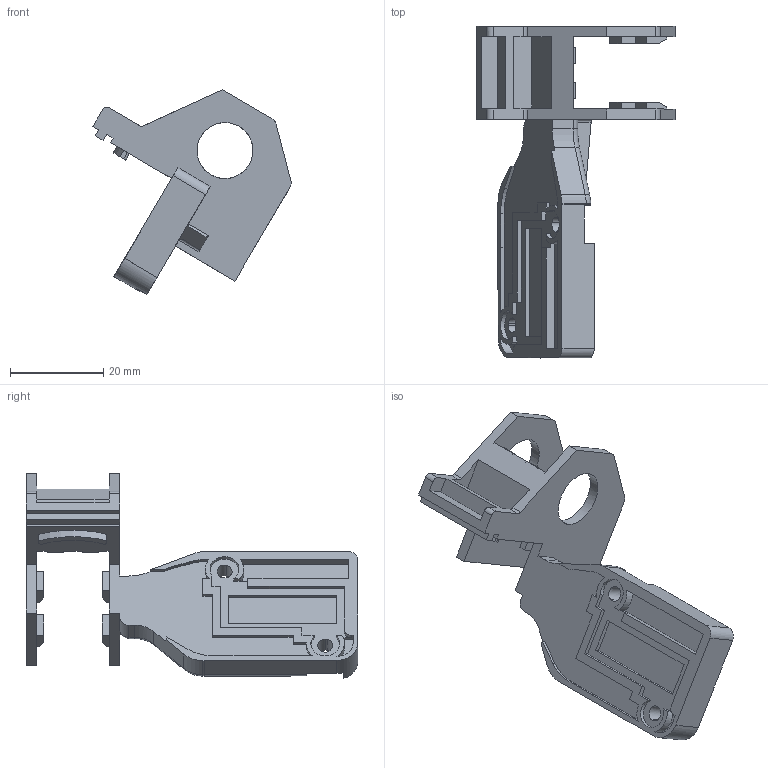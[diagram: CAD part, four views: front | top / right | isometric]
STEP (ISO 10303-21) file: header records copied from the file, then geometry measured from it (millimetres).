
FILE_DESCRIPTION(('CATIA V5 STEP Exchange'),'2;1');
FILE_NAME('C:\Users\Administrator\Desktop\SS2.2工程车\阻尼调节气缸用方案\2021.1.27--做3D打印件更改支架和齿条\3D-zhi jia.stp','2021-01-27T05:24:14+00:00',('none'),('none'),'CATIA Version 5 Release 20 GA (IN-10)','CATIA V5 STEP AP214','none');
FILE_SCHEMA(('AUTOMOTIVE_DESIGN { 1 0 10303 214 1 1 1 1 }'));
Length unit declared in the file: millimetre
Products named in the file (1): qi gang zhi jia
Bounding box: 42.42 x 71 x 43.81 mm (x, y, z)
Volume: 13730.7 mm3; surface area: 9241.4 mm2
Topology: 1 solids, 1 shells, 192 faces, 563 edges, 376 vertices
Faces by surface type: plane 126, cylinder 56, extrusion 5, torus 4, sphere 1
Entity records: 6557 total; most frequent: CARTESIAN_POINT 1711, ORIENTED_EDGE 1116, DIRECTION 792, EDGE_CURVE 558, VECTOR 405, LINE 400, VERTEX_POINT 371, AXIS2_PLACEMENT_3D 228
